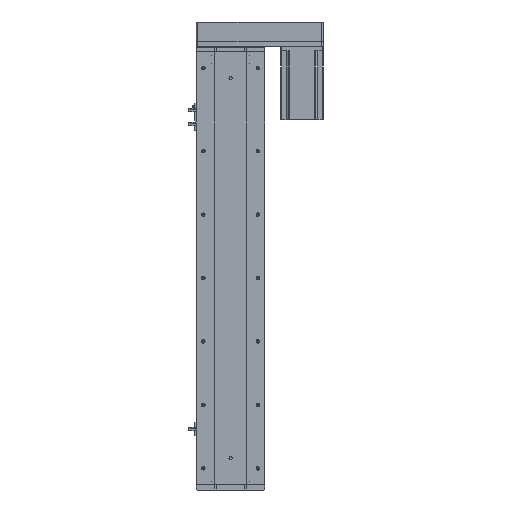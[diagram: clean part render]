
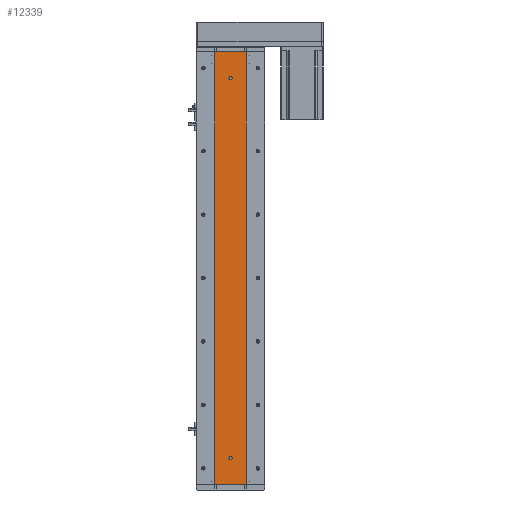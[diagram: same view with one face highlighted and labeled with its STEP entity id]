
A CAD part, left-side view. The second image highlights one B-rep face of the part: STEP entity #12339.
In plain terms, the highlighted planar face has unit normal (-1, 0, 0).
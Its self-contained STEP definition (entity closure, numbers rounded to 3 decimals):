
#72 = VERTEX_POINT ( 'NONE', #11187 ) ;
#1532 = ORIENTED_EDGE ( 'NONE', *, *, #16677, .F. ) ;
#2676 = DIRECTION ( 'NONE',  ( 0., -1., 0. ) ) ;
#2880 = EDGE_CURVE ( 'NONE', #10839, #72, #13396, .T. ) ;
#3372 = DIRECTION ( 'NONE',  ( -1., 0., 0. ) ) ;
#3445 = VERTEX_POINT ( 'NONE', #30020 ) ;
#4334 = VECTOR ( 'NONE', #13518, 1000. ) ;
#5188 = LINE ( 'NONE', #34264, #14273 ) ;
#5752 = FACE_OUTER_BOUND ( 'NONE', #7717, .T. ) ;
#7255 = CIRCLE ( 'NONE', #15964, 3. ) ;
#7717 = EDGE_LOOP ( 'NONE', ( #25187, #23210, #14897, #16006 ) ) ;
#7827 = AXIS2_PLACEMENT_3D ( 'NONE', #23780, #3372, #27215 ) ;
#8775 = PLANE ( 'NONE',  #31135 ) ;
#8918 = DIRECTION ( 'NONE',  ( 1., 0., 0. ) ) ;
#9908 = EDGE_LOOP ( 'NONE', ( #20122, #42764 ) ) ;
#10087 = CARTESIAN_POINT ( 'NONE',  ( -24.994, -29.785, 819. ) ) ;
#10472 = DIRECTION ( 'NONE',  ( 0., 0., -1. ) ) ;
#10839 = VERTEX_POINT ( 'NONE', #33039 ) ;
#11123 = CARTESIAN_POINT ( 'NONE',  ( -24.994, 0., 769. ) ) ;
#11187 = CARTESIAN_POINT ( 'NONE',  ( -24.994, -29.785, 0. ) ) ;
#12003 = EDGE_CURVE ( 'NONE', #18003, #24307, #5188, .T. ) ;
#12051 = EDGE_CURVE ( 'NONE', #27573, #27929, #22276, .T. ) ;
#12339 = ADVANCED_FACE ( 'NONE', ( #15916, #14867, #5752 ), #8775, .F. ) ;
#13396 = LINE ( 'NONE', #10087, #4334 ) ;
#13518 = DIRECTION ( 'NONE',  ( 0., 0., -1. ) ) ;
#14096 = LINE ( 'NONE', #23078, #40140 ) ;
#14200 = CARTESIAN_POINT ( 'NONE',  ( -24.994, 0., 769. ) ) ;
#14273 = VECTOR ( 'NONE', #10472, 1000. ) ;
#14545 = DIRECTION ( 'NONE',  ( 0., 0., 1. ) ) ;
#14867 = FACE_BOUND ( 'NONE', #41478, .T. ) ;
#14897 = ORIENTED_EDGE ( 'NONE', *, *, #40851, .F. ) ;
#15916 = FACE_BOUND ( 'NONE', #9908, .T. ) ;
#15964 = AXIS2_PLACEMENT_3D ( 'NONE', #11123, #34920, #14545 ) ;
#15997 = AXIS2_PLACEMENT_3D ( 'NONE', #14200, #37971, #17642 ) ;
#16006 = ORIENTED_EDGE ( 'NONE', *, *, #12003, .T. ) ;
#16502 = CARTESIAN_POINT ( 'NONE',  ( -24.994, 0., 50. ) ) ;
#16677 = EDGE_CURVE ( 'NONE', #3445, #25796, #25033, .T. ) ;
#17642 = DIRECTION ( 'NONE',  ( 0., 0., 1. ) ) ;
#18003 = VERTEX_POINT ( 'NONE', #21371 ) ;
#18726 = CIRCLE ( 'NONE', #7827, 3. ) ;
#19933 = DIRECTION ( 'NONE',  ( 0., 0., 1. ) ) ;
#20122 = ORIENTED_EDGE ( 'NONE', *, *, #12051, .F. ) ;
#20840 = ORIENTED_EDGE ( 'NONE', *, *, #32035, .F. ) ;
#21371 = CARTESIAN_POINT ( 'NONE',  ( -24.994, 29.785, 819. ) ) ;
#22276 = CIRCLE ( 'NONE', #15997, 3. ) ;
#23078 = CARTESIAN_POINT ( 'NONE',  ( -24.994, 29.785, 819. ) ) ;
#23210 = ORIENTED_EDGE ( 'NONE', *, *, #2880, .F. ) ;
#23780 = CARTESIAN_POINT ( 'NONE',  ( -24.994, 0., 50. ) ) ;
#24307 = VERTEX_POINT ( 'NONE', #36624 ) ;
#25033 = CIRCLE ( 'NONE', #41398, 3. ) ;
#25187 = ORIENTED_EDGE ( 'NONE', *, *, #39023, .T. ) ;
#25263 = CARTESIAN_POINT ( 'NONE',  ( -24.994, 0., 47. ) ) ;
#25662 = CARTESIAN_POINT ( 'NONE',  ( -24.994, 0., 772. ) ) ;
#25796 = VERTEX_POINT ( 'NONE', #25263 ) ;
#27215 = DIRECTION ( 'NONE',  ( 0., 0., 1. ) ) ;
#27573 = VERTEX_POINT ( 'NONE', #25662 ) ;
#27929 = VERTEX_POINT ( 'NONE', #37617 ) ;
#28344 = VECTOR ( 'NONE', #40987, 1000. ) ;
#29361 = CARTESIAN_POINT ( 'NONE',  ( -24.994, 29.785, 819. ) ) ;
#30020 = CARTESIAN_POINT ( 'NONE',  ( -24.994, 0., 53. ) ) ;
#31135 = AXIS2_PLACEMENT_3D ( 'NONE', #29361, #8918, #32753 ) ;
#32035 = EDGE_CURVE ( 'NONE', #25796, #3445, #18726, .T. ) ;
#32753 = DIRECTION ( 'NONE',  ( 0., 0., -1. ) ) ;
#33039 = CARTESIAN_POINT ( 'NONE',  ( -24.994, -29.785, 819. ) ) ;
#34181 = EDGE_CURVE ( 'NONE', #27929, #27573, #7255, .T. ) ;
#34264 = CARTESIAN_POINT ( 'NONE',  ( -24.994, 29.785, 819. ) ) ;
#34920 = DIRECTION ( 'NONE',  ( -1., 0., 0. ) ) ;
#36624 = CARTESIAN_POINT ( 'NONE',  ( -24.994, 29.785, 0. ) ) ;
#37323 = LINE ( 'NONE', #37745, #28344 ) ;
#37617 = CARTESIAN_POINT ( 'NONE',  ( -24.994, 0., 766. ) ) ;
#37745 = CARTESIAN_POINT ( 'NONE',  ( -24.994, 29.785, 0. ) ) ;
#37971 = DIRECTION ( 'NONE',  ( -1., 0., 0. ) ) ;
#39023 = EDGE_CURVE ( 'NONE', #24307, #72, #37323, .T. ) ;
#40140 = VECTOR ( 'NONE', #2676, 1000. ) ;
#40258 = DIRECTION ( 'NONE',  ( -1., 0., 0. ) ) ;
#40851 = EDGE_CURVE ( 'NONE', #18003, #10839, #14096, .T. ) ;
#40987 = DIRECTION ( 'NONE',  ( 0., -1., 0. ) ) ;
#41398 = AXIS2_PLACEMENT_3D ( 'NONE', #16502, #40258, #19933 ) ;
#41478 = EDGE_LOOP ( 'NONE', ( #1532, #20840 ) ) ;
#42764 = ORIENTED_EDGE ( 'NONE', *, *, #34181, .F. ) ;
